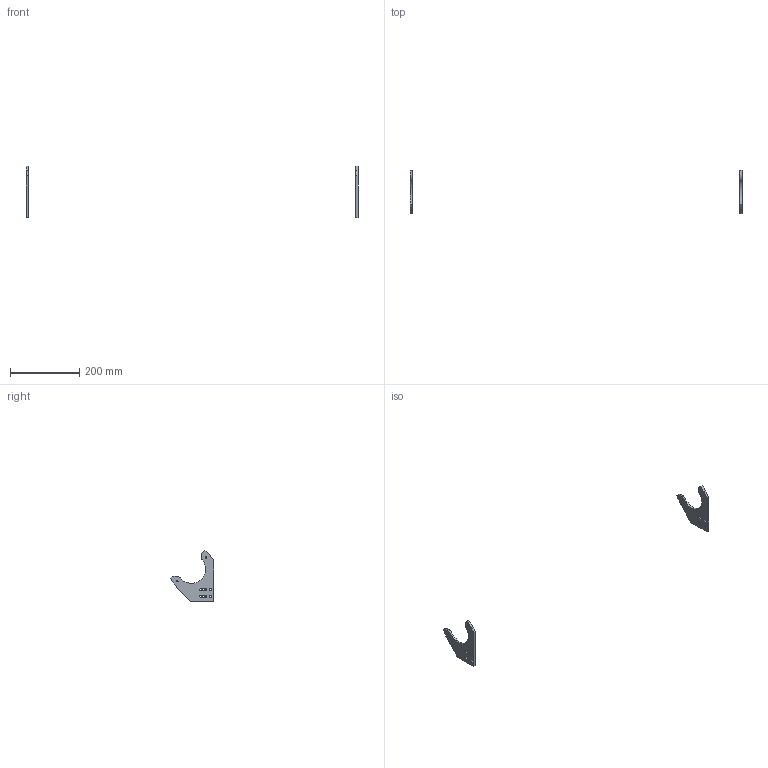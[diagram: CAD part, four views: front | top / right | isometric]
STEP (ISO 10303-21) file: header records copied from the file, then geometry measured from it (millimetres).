
FILE_DESCRIPTION(/* description */ (''),/* implementation_level */ '2;1');
FILE_NAME(/* name */ '10.optics-laser#10.4#la-mpk-2',/* time_stamp */ '2014-12-01T20:19:27+01:00',/* author */ (''),/* organization */ (''),/* preprocessor_version */ 'ST-DEVELOPER v14',/* originating_system */ '',/* authorisation */ '');
FILE_SCHEMA (('AUTOMOTIVE_DESIGN'));
Length unit declared in the file: millimetre
Products named in the file (1): Document
Bounding box: 956 x 124 x 147.8 mm (x, y, z)
Volume: 93024.4 mm3; surface area: 39319.6 mm2
Topology: 2 solids, 2 shells, 80 faces, 228 edges, 152 vertices
Faces by surface type: bspline 44, plane 36
Entity records: 5415 total; most frequent: CARTESIAN_POINT 2502, B_SPLINE_CURVE_WITH_KNOTS 464, ORIENTED_EDGE 456, PCURVE 456, DEFINITIONAL_REPRESENTATION 456, SURFACE_CURVE 228, EDGE_CURVE 228, VERTEX_POINT 152
